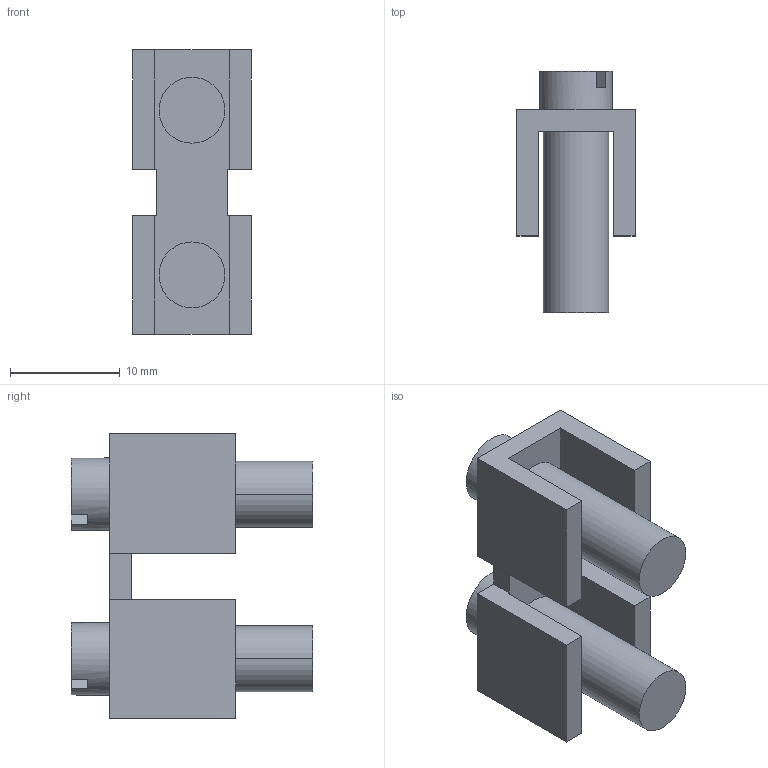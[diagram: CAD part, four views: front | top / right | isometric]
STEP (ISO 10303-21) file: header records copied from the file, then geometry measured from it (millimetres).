
FILE_DESCRIPTION( ('This file contains a STEP AP42 implementation' ,'as created by ZW3D STEP Interface translator.') ,'2;1' );
FILE_NAME( 'FBI 2-15桥接件-模型.stp' ,'231227.164912', (''), ('ZWCAD Software Co.'), 'Version 1.0', 'ZW3D to STEP translator', '' );
FILE_SCHEMA(('AUTOMOTIVE_DESIGN { 1 0 10303 214 1 1 1 1 }'));
Length unit declared in the file: millimetre
Products named in the file (2): 0; FBI_3-15-select
Bounding box: 10.78 x 22 x 25.9 mm (x, y, z)
Volume: 2496 mm3; surface area: 2461.8 mm2
Topology: 1 solids, 1 shells, 40 faces, 102 edges, 68 vertices
Faces by surface type: plane 34, cylinder 6
Full cylindrical faces by diameter (mm): 6.6 x2
Entity records: 1276 total; most frequent: CARTESIAN_POINT 211, DIRECTION 204, ORIENTED_EDGE 204, EDGE_CURVE 102, VECTOR 82, LINE 82, VERTEX_POINT 68, AXIS2_PLACEMENT_3D 61
